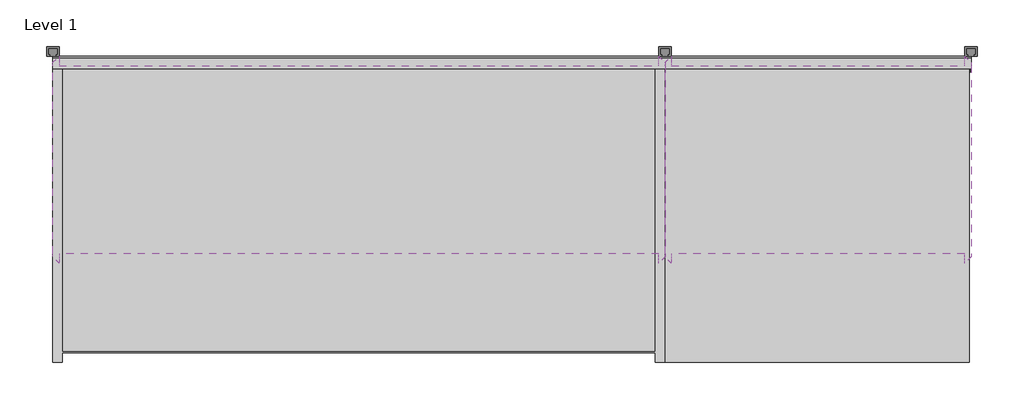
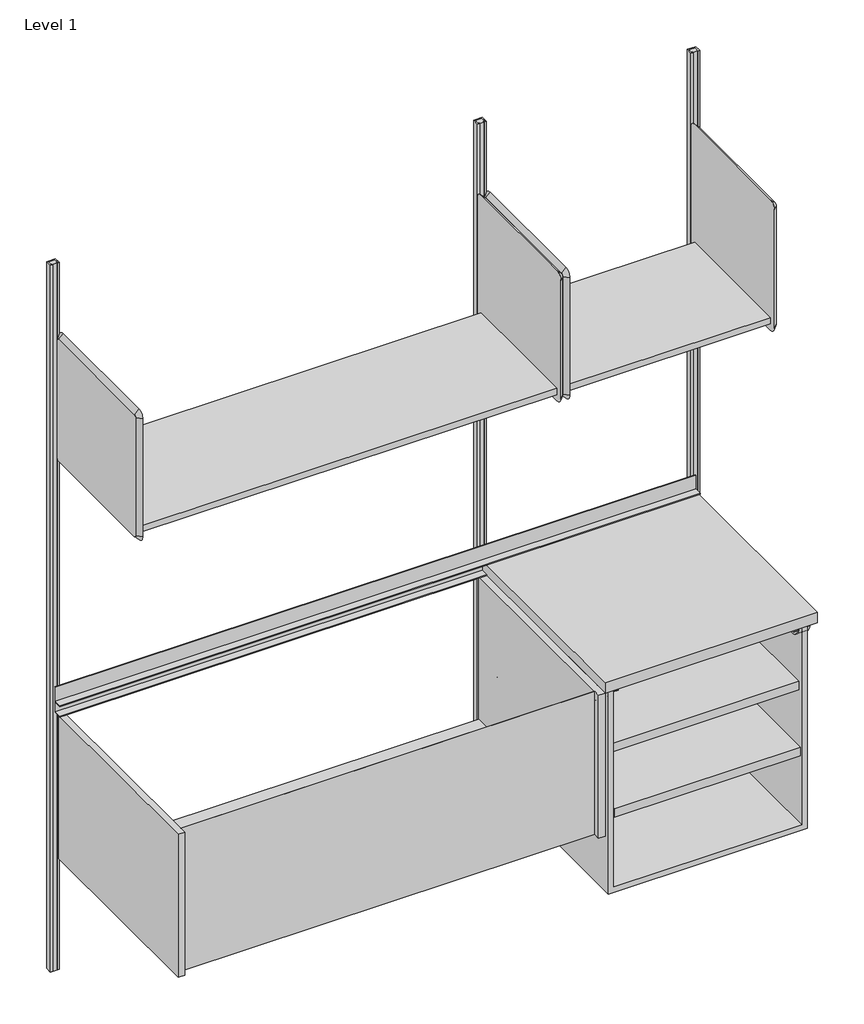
# One storey, incomplete: 13 furniture elements.
"""IFC4 building model written with IfcOpenShell, lengths in millimetres."""

from ifc_helpers import new_model, si_unit, origin, place, context, project, spatial, transform, mapped, element, save
from components import furniture_7f08a233, furniture_75e43aeb, furniture_d92eedc3, furniture_197736b8, furniture_ea4a19f1, furniture_5dd508a7, furniture_9508fd13, furniture_200c0cef, furniture_3418a519, furniture_abf02616, furniture_ea425779

model = new_model("IFC4")

# Units and contexts
model_context = context("Model", 3, world=origin())
ifc_project = project(units=[si_unit("LENGTHUNIT", "METRE", prefix="MILLI")], contexts=[model_context])

# Site, building, storey
site = spatial("IfcSite", under=ifc_project)
building = spatial("IfcBuilding", under=site)
storey = spatial("IfcBuildingStorey", under=building, Name="Level 1", Elevation=0.0)

# Furniture
placement = place(None, origin())
furniture_shape = furniture_7f08a233(model_context)
element("IfcFurniture", 1, ObjectType="HermanMiller_CoStruc_C2141_Heavy-DutyWorkSurface : 24\"D x 24\"W Lam", at=placement, inside=storey, context=model_context, shape_type="MappedRepresentation", body=[
    mapped(furniture_shape, transform((1522.37694, -196.85, 0.0), x_axis=(1.0, 0.0, 0.0), y_axis=(0.0, 1.0, 0.0), z_axis=(0.0, 0.0, 1.0))),
])
furniture_2_shape = furniture_75e43aeb(model_context)
element("IfcFurniture", 2, ObjectType="HermanMiller_CoStruc_C2140H_WorkSurfaceSupport_Heavy Duty : 11\"H x 24\"D x 24\"W", at=placement, inside=storey, context=model_context, shape_type="MappedRepresentation", body=[
    mapped(furniture_2_shape, transform((1522.37694, -196.85, 0.0), x_axis=(1.0, 0.0, 0.0), y_axis=(0.0, 1.0, 0.0), z_axis=(0.0, 0.0, 1.0))),
])
furniture_3_shape = furniture_d92eedc3(model_context)
element("IfcFurniture", 3, ObjectType="HermanMiller_CoStruc_C2910_WorkSurfaceBacksplash : 3\"H x 72\"W", at=placement, inside=storey, context=model_context, shape_type="MappedRepresentation", body=[
    mapped(furniture_3_shape, transform((914.4, -19.05, 0.0), x_axis=(1.0, 0.0, 0.0), y_axis=(0.0, 1.0, 0.0), z_axis=(0.0, 0.0, 1.0))),
])
furniture_4_shape = furniture_197736b8(model_context)
element("IfcFurniture", 4, ObjectType="HermanMiller_CoStruc_C5040_StorageCase : 25\"H x 23\"D x 22\"W", at=placement, inside=storey, context=model_context, shape_type="MappedRepresentation", body=[
    mapped(furniture_4_shape, transform((1527.13944, -330.3905, 0.0), x_axis=(1.0, 0.0, 0.0), y_axis=(0.0, 1.0, 0.0), z_axis=(0.0, 0.0, 1.0))),
])
furniture_5_shape = furniture_ea4a19f1(model_context)
element("IfcFurniture", 5, ObjectType="HermanMiller_CoStruc_C2512_SinkModule : 18\"H x 24\"D x 48\"W", at=placement, inside=storey, context=model_context, shape_type="MappedRepresentation", body=[
    mapped(furniture_5_shape, transform((609.6, -206.375, 0.0), x_axis=(1.0, 0.0, 0.0), y_axis=(0.0, 1.0, 0.0), z_axis=(0.0, 0.0, 1.0))),
])
furniture_6_shape = furniture_5dd508a7(model_context)
element("IfcFurniture", 6, ObjectType="HermanMiller_ActionOffice_A3210_B-StyleShelf : 15-1/2H 16D 48W", at=placement, inside=storey, context=model_context, shape_type="MappedRepresentation", body=[
    mapped(furniture_6_shape, transform((733.5420045, -238.125, 0.0), x_axis=(1.0, 0.0, 0.0), y_axis=(0.0, 1.0, 0.0), z_axis=(0.0, 0.0, 1.0))),
])
furniture_7_shape = furniture_9508fd13(model_context)
element("IfcFurniture", 7, ObjectType="HermanMiller_CoStruc_C5041_StorageCaseShelf : 23\"D x 22\"W", at=placement, inside=storey, context=model_context, shape_type="MappedRepresentation", body=[
    mapped(furniture_7_shape, transform((1681.7253404, -863.6664812, 0.0), x_axis=(1.0, 0.0, 0.0), y_axis=(0.0, 1.0, 0.0), z_axis=(0.0, 0.0, 1.0))),
])
furniture_8_shape = furniture_200c0cef(model_context)
element("IfcFurniture", 8, ObjectType="HermanMiller_CoStruc_C5041_StorageCaseShelf : 23\"D x 22\"W", at=placement, inside=storey, context=model_context, shape_type="MappedRepresentation", body=[
    mapped(furniture_8_shape, transform((1686.4878404, -863.6664812, 0.0), x_axis=(1.0, 0.0, 0.0), y_axis=(0.0, 1.0, 0.0), z_axis=(0.0, 0.0, 1.0))),
])
furniture_9_shape = furniture_3418a519(model_context)
element("IfcFurniture", 9, ObjectType="HermanMiller_ActionOffice_A3210_B-StyleShelf : 15-1/2H 16D 24W", at=placement, inside=storey, context=model_context, shape_type="MappedRepresentation", body=[
    mapped(furniture_9_shape, transform((1647.9420045, -238.125, 0.0), x_axis=(1.0, 0.0, 0.0), y_axis=(0.0, 1.0, 0.0), z_axis=(0.0, 0.0, 1.0))),
])
furniture_10_shape = furniture_abf02616(model_context)
element("IfcFurniture", 10, ObjectType="HermanMiller_CoStruc_C1610_AdapterRail : 24\"W", at=placement, inside=storey, context=model_context, shape_type="MappedRepresentation", body=[
    mapped(furniture_10_shape, transform((1522.37694, -34.925, 0.0), x_axis=(1.0, 0.0, 0.0), y_axis=(0.0, 1.0, 0.0), z_axis=(0.0, 0.0, 1.0))),
])
furniture_11_shape = furniture_ea425779(model_context)
element("IfcFurniture", 11, ObjectType="HermanMiller_ActionOffice_AO213_WallStrip : 84\"H", at=placement, inside=storey, context=model_context, shape_type="MappedRepresentation", body=[
    mapped(furniture_11_shape, transform((1219.2, 0.0, 0.0), x_axis=(1.0, 0.0, 0.0), y_axis=(0.0, 1.0, 0.0), z_axis=(0.0, 0.0, 1.0))),
])
element("IfcFurniture", 12, ObjectType="HermanMiller_ActionOffice_AO213_WallStrip : 84\"H", at=placement, inside=storey, context=model_context, shape_type="MappedRepresentation", body=[
    mapped(furniture_11_shape, transform((1828.8, 0.0, 0.0), x_axis=(1.0, 0.0, 0.0), y_axis=(0.0, 1.0, 0.0), z_axis=(0.0, 0.0, 1.0))),
])
element("IfcFurniture", 13, ObjectType="HermanMiller_ActionOffice_AO213_WallStrip : 84\"H", at=placement, inside=storey, context=model_context, shape_type="MappedRepresentation", body=[
    mapped(furniture_11_shape, transform((0.0, 0.0, 0.0), x_axis=(1.0, 0.0, 0.0), y_axis=(0.0, 1.0, 0.0), z_axis=(0.0, 0.0, 1.0))),
])

save(model, "model.ifc")
